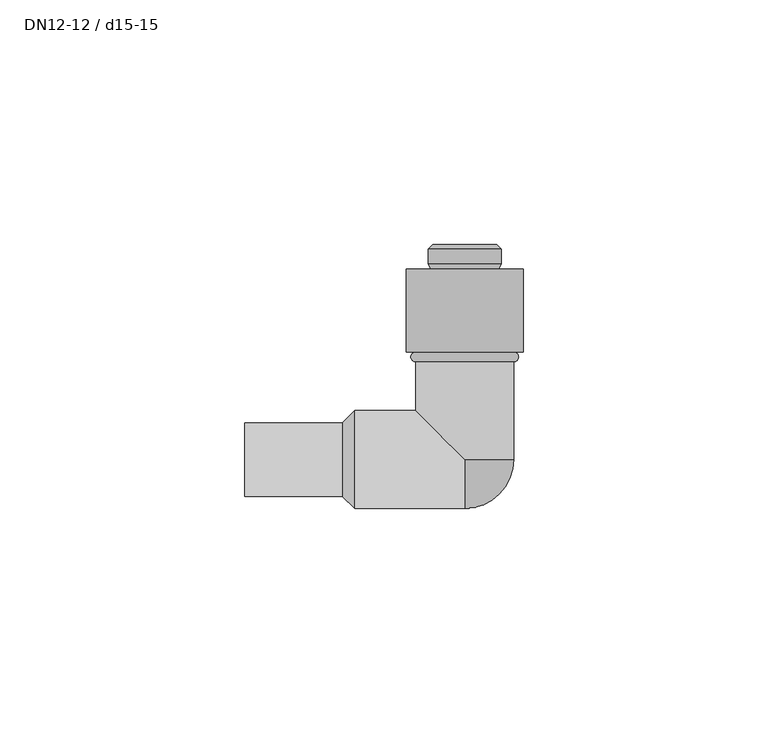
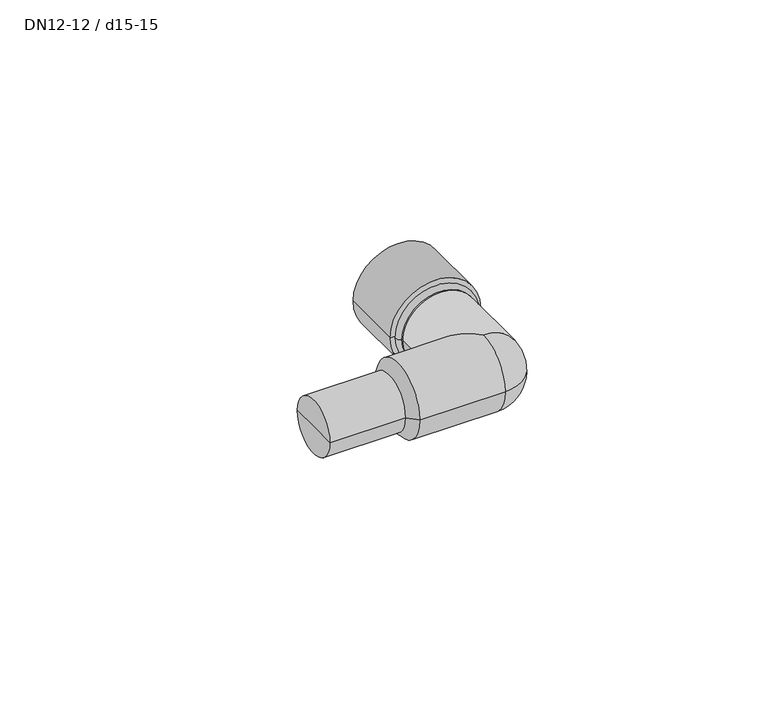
"""IFC4 building model written with IfcOpenShell, lengths in millimetres: pipe fitting geometry, NLRS_50_PIF_UN_Mapress overgangsknie 90° met MasterFix en insteekeinde_geb : DN12-12 / d15-15."""

import ifcopenshell
import ifcopenshell.guid

model = None  # the IFC model being written
_history = None  # IfcOwnerHistory: only IFC2X3 demands one
_inside = {}  # id of a spatial element -> (the spatial element, [elements in it])
_under = {}  # id of a project, library or spatial element -> (it, [spatial elements below it])
_declared = {}  # id of a project -> (the project, [libraries it declares])
_typed = {}  # id of a type object -> (the type object, [elements of that type])
_made_of = {}  # id of a material, layer set ... -> (it, [elements and type objects made of it])


def new_model(schema):
    """Start an empty IFC model of exactly this schema.

    Asked for "IFC4X3", IfcOpenShell would pick the latest addendum, in which some entities
    have other attributes; the version numbers below select the first issue.
    IFC2X3 requires an IfcOwnerHistory on every rooted entity: one is made here for all.
    """
    global model, _history
    if schema == "IFC4X3":
        model = ifcopenshell.file(schema_version=(4, 3, 0, 0))
    else:
        model = ifcopenshell.file(schema=schema)
    _inside.clear()
    _under.clear()
    _declared.clear()
    _typed.clear()
    _made_of.clear()
    _history = None
    if model.schema == "IFC2X3":
        org = make("IfcOrganization", Name="unknown")
        user = make(
            "IfcPersonAndOrganization",
            ThePerson=make("IfcPerson", FamilyName="unknown"),
            TheOrganization=org,
        )
        app = make(
            "IfcApplication",
            ApplicationDeveloper=org,
            Version="unknown",
            ApplicationFullName="unknown",
            ApplicationIdentifier="unknown",
        )
        _history = make(
            "IfcOwnerHistory",
            OwningUser=user,
            OwningApplication=app,
            ChangeAction="ADDED",
            CreationDate=0,
        )
    return model


def make(cls, **values):
    """One entity of the class cls with the attributes given. An attribute that is None is left unset."""
    return model.create_entity(
        cls, **{name: value for name, value in values.items() if value is not None}
    )


def rooted(cls, **values):
    """An entity with a GlobalId (a new one), such as an element, a storey or a relation."""
    return make(cls, GlobalId=ifcopenshell.guid.new(), OwnerHistory=_history, **values)


def si_unit(unit_type, name, prefix=None):
    """IfcSIUnit, for example si_unit("LENGTHUNIT", "METRE", prefix="MILLI")."""
    return make("IfcSIUnit", UnitType=unit_type, Prefix=prefix, Name=name)


def assignment(units):
    """IfcUnitAssignment: the units of a project."""
    return None if units is None else make("IfcUnitAssignment", Units=units)


def point(xyz):
    """IfcCartesianPoint."""
    return None if xyz is None else make("IfcCartesianPoint", Coordinates=xyz)


def direction(xyz):
    """IfcDirection."""
    return None if xyz is None else make("IfcDirection", DirectionRatios=xyz)


def frame(location, z_axis=None, x_axis=None):
    """IfcAxis2Placement3D, a coordinate frame: its origin and axes. An axis left out is left unset."""
    return make(
        "IfcAxis2Placement3D",
        Location=point(location),
        Axis=direction(z_axis),
        RefDirection=direction(x_axis),
    )


def origin():
    """The frame at (0, 0, 0) with its axes left unset."""
    return frame((0.0, 0.0, 0.0))


def place(relative_to, where):
    """IfcLocalPlacement: puts the frame where relative to a parent placement (None: the world)."""
    return make(
        "IfcLocalPlacement", PlacementRelTo=relative_to, RelativePlacement=where
    )


def context(
    kind, dimensions, precision=None, world=None, true_north=None, identifier=None
):
    """IfcGeometricRepresentationContext, for example the 3D "Model" context."""
    return make(
        "IfcGeometricRepresentationContext",
        ContextIdentifier=identifier,
        ContextType=kind,
        CoordinateSpaceDimension=dimensions,
        Precision=precision,
        WorldCoordinateSystem=world,
        TrueNorth=true_north,
    )


def project(units=None, contexts=None):
    """IfcProject with its units and contexts."""
    return rooted(
        "IfcProject",
        Name="project",
        RepresentationContexts=contexts,
        UnitsInContext=assignment(units),
    )


def spatial(cls, under=None, at=None, **own):
    """A site, building, storey or space (cls), placed at a placement, below another one or the project."""
    s = rooted(cls, ObjectPlacement=at, **own)
    if under is not None:
        _under.setdefault(under.id(), (under, []))[1].append(s)
    return s


def polyline(points):
    """IfcPolyline through the points."""
    return make("IfcPolyline", Points=[point(p) for p in points])


def circle_curve(where, radius):
    """IfcCircle in the frame where."""
    return make("IfcCircle", Position=where, Radius=radius)


def ellipse_curve(where, semi_axis1, semi_axis2):
    """IfcEllipse in the frame where."""
    return make(
        "IfcEllipse", Position=where, SemiAxis1=semi_axis1, SemiAxis2=semi_axis2
    )


def trimmed(basis, trim1, trim2, sense, master):
    """IfcTrimmedCurve: the piece of a basis curve between two trims."""
    return make(
        "IfcTrimmedCurve",
        BasisCurve=basis,
        Trim1=trim1,
        Trim2=trim2,
        SenseAgreement=sense,
        MasterRepresentation=master,
    )


def shape(context_of_items, identifier, shape_type, items):
    """IfcShapeRepresentation: the items that make up one representation, for example the "Body"."""
    return make(
        "IfcShapeRepresentation",
        ContextOfItems=context_of_items,
        RepresentationIdentifier=identifier,
        RepresentationType=shape_type,
        Items=items,
    )


def source(mapping_origin, context_of_items, identifier, shape_type, items):
    """IfcRepresentationMap: a shape defined once, which mapped items show again and again."""
    return make(
        "IfcRepresentationMap",
        MappingOrigin=mapping_origin,
        MappedRepresentation=shape(context_of_items, identifier, shape_type, items),
    )


def transform(
    local_origin,
    x_axis=None,
    y_axis=None,
    z_axis=None,
    scale=None,
    scale2=None,
    scale3=None,
    uniform=True,
):
    """IfcCartesianTransformationOperator3D, or its non-uniform kind. x_axis, y_axis, z_axis: its Axis1, 2, 3."""
    if uniform:
        return make(
            "IfcCartesianTransformationOperator3D",
            Axis1=direction(x_axis),
            Axis2=direction(y_axis),
            LocalOrigin=point(local_origin),
            Scale=scale,
            Axis3=direction(z_axis),
        )
    return make(
        "IfcCartesianTransformationOperator3DnonUniform",
        Axis1=direction(x_axis),
        Axis2=direction(y_axis),
        LocalOrigin=point(local_origin),
        Scale=scale,
        Axis3=direction(z_axis),
        Scale2=scale2,
        Scale3=scale3,
    )


def mapped(mapping_source, mapping_target):
    """IfcMappedItem: shows the shape of a source again, moved by a transform."""
    return make(
        "IfcMappedItem", MappingSource=mapping_source, MappingTarget=mapping_target
    )


def made_of(thing, what):
    """Note that an element or type object is made of a material, layer set ...; save() writes the relation."""
    if what is not None:
        _made_of.setdefault(what.id(), (what, []))[1].append(thing)
    return thing


def element(
    cls,
    number,
    at=None,
    inside=None,
    cuts=None,
    type_object=None,
    material=None,
    context=None,
    identifier="Body",
    shape_type=None,
    held_by="IfcProductDefinitionShape",
    body=None,
    shapes=None,
    **own,
):
    """One element of the class cls, such as IfcWall. Its Tag is "e" and its number.

    at: its placement. inside: the storey or other place that contains it. cuts: it is an
    opening in that element (IfcRelVoidsElement). A single representation is given by context,
    identifier, shape_type and body (its items); several are given by shapes. held_by: the class
    of the entity that holds the representations. save() writes the other relations.
    """
    e = rooted(cls, Tag="e%d" % number, ObjectPlacement=at, **own)
    if body is not None:
        shapes = [shape(context, identifier, shape_type, body)]
    if shapes is not None:
        e.Representation = make(held_by, Representations=shapes)
    if inside is not None:
        _inside.setdefault(inside.id(), (inside, []))[1].append(e)
    if cuts is not None:
        rooted(
            "IfcRelVoidsElement", RelatingBuildingElement=cuts, RelatedOpeningElement=e
        )
    if type_object is not None:
        _typed.setdefault(type_object.id(), (type_object, []))[1].append(e)
    return made_of(e, material)


def aggregate(whole, parts):
    """IfcRelAggregates: a whole, such as a stair, and the parts it consists of."""
    return rooted("IfcRelAggregates", RelatingObject=whole, RelatedObjects=parts)


def save(model, path):
    """Write the relations noted so far, then the file.

    IfcRelAggregates (storeys below a building ...), IfcRelContainedInSpatialStructure (elements
    in a storey), IfcRelDefinesByType, IfcRelAssociatesMaterial and IfcRelDeclares: one each for
    every whole, place, type object, material and project.
    """
    for whole, parts in _under.values():
        aggregate(whole, parts)
    for where, things in _inside.values():
        rooted(
            "IfcRelContainedInSpatialStructure",
            RelatedElements=things,
            RelatingStructure=where,
        )
    for kind, things in _typed.values():
        rooted("IfcRelDefinesByType", RelatedObjects=things, RelatingType=kind)
    for what, things in _made_of.values():
        rooted("IfcRelAssociatesMaterial", RelatedObjects=things, RelatingMaterial=what)
    for by, libraries in _declared.values():
        rooted("IfcRelDeclares", RelatingContext=by, RelatedDefinitions=libraries)
    model.write(path)


def plane_surface(at):
    """IfcPlane: the flat surface through the origin of the frame at, square to its z axis."""
    return make("IfcPlane", Position=at)


def cylinder_surface(at, radius):
    """IfcCylindricalSurface: all points at the distance radius from the z axis of the frame at."""
    return make("IfcCylindricalSurface", Position=at, Radius=radius)


def revolved_surface(curve, axis_point, axis_direction):
    """IfcSurfaceOfRevolution: the curve turned about the line through axis_point along axis_direction."""
    return make(
        "IfcSurfaceOfRevolution",
        SweptCurve=make("IfcArbitraryOpenProfileDef", ProfileType="CURVE", Curve=curve),
        AxisPosition=make("IfcAxis1Placement", Location=point(axis_point), Axis=direction(axis_direction)),
    )


def advanced_brep(points, edges, surfaces, faces):
    """IfcAdvancedBrep: a solid bounded by faces that lie on surfaces and meet in shared edges.

    An edge is (start, end): straight between two places in points (the first is 0);
    or (start, end, curve); or (start, end, curve, False) where it runs against its curve.
    A face is (place in surfaces, loops), or (place, loops, False) where it looks against
    its surface's normal. A loop lists edges by number (the first is 1), with a minus sign
    where the edge is run from its end to its start. The first loop is the outer one.
    """
    corners = [point(p) for p in points]
    vertices = [make("IfcVertexPoint", VertexGeometry=c) for c in corners]
    made = []
    for start, end, *more in edges:
        made.append(
            make(
                "IfcEdgeCurve",
                EdgeStart=vertices[start],
                EdgeEnd=vertices[end],
                EdgeGeometry=more[0] if more else make("IfcPolyline", Points=[corners[start], corners[end]]),
                SameSense=more[1] if len(more) > 1 else True,
            )
        )
    hull = []
    for where, loops, *sense in faces:
        bounds = []
        for j, loop in enumerate(loops):
            ring = [make("IfcOrientedEdge", EdgeElement=made[abs(k) - 1], Orientation=k > 0) for k in loop]
            bounds.append(
                make(
                    "IfcFaceOuterBound" if j == 0 else "IfcFaceBound",
                    Bound=make("IfcEdgeLoop", EdgeList=ring),
                    Orientation=True,
                )
            )
        hull.append(make("IfcAdvancedFace", Bounds=bounds, FaceSurface=surfaces[where], SameSense=sense[0] if sense else True))
    return make("IfcAdvancedBrep", Outer=make("IfcClosedShell", CfsFaces=hull))


def dn12_12_d15_15_3ed2f5e3(model_context):
    return source(origin(), model_context, "Body", "AdvancedBrep", [
        advanced_brep(
        [(0.0, 44.0, 0.0), (6.5, 44.0, 0.0), (-6.5, 44.0, 0.0), (-10.0, 20.0, 0.0), (10.0, 20.0, 0.0), (0.0, 20.0, 0.0), (-10.0, 22.0, 0.0), (10.0, 22.0, 0.0), (-7.5, 22.0, 0.0), (7.5, 22.0, 0.0), (-7.5, 28.881966, 0.0), (7.5, 28.881966, 0.0), (-7.5, 31.118034, 0.0), (7.5, 31.118034, 0.0), (-7.5, 33.9414451, 0.0), (7.5, 33.9414451, 0.0), (-7.5, 39.9892433, 0.0), (7.5, 39.9892433, 0.0), (-7.5, 43.0, 0.0), (7.5, 43.0, 0.0)],
        [
            (0, 1),
            (1, 2, circle_curve(frame((0.0, 44.0, 0.0), z_axis=(0.0, 1.0, 0.0), x_axis=(1.0000000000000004, 0.0, 0.0)), 6.5)),
            (2, 0),
            (2, 1, circle_curve(frame((0.0, 44.0, 0.0), z_axis=(0.0, 1.0, 0.0), x_axis=(1.0000000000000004, 0.0, 0.0)), 6.5)),
            (3, 4, circle_curve(frame((0.0, 20.0, 0.0), z_axis=(0.0, -1.0, 0.0), x_axis=(1.0000000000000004, 0.0, 0.0)), 10.0)),
            (4, 5),
            (5, 3),
            (4, 3, circle_curve(frame((0.0, 20.0, 0.0), z_axis=(0.0, -1.0, 0.0), x_axis=(1.0000000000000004, 0.0, 0.0)), 10.0)),
            (6, 7, circle_curve(frame((0.0, 22.0, 0.0), z_axis=(0.0, -1.0, 0.0), x_axis=(1.0000000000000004, 0.0, 0.0)), 10.0)),
            (7, 4, circle_curve(frame((10.0, 21.0, 0.0), z_axis=(0.0, 0.0, -1.0), x_axis=(0.0, -1.0000000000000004, 0.0)), 1.0)),
            (3, 6, circle_curve(frame((-10.0, 21.0, 0.0), z_axis=(0.0, 0.0, -1.0), x_axis=(0.0, -1.0000000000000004, 0.0)), 1.0)),
            (7, 6, circle_curve(frame((0.0, 22.0, 0.0), z_axis=(0.0, -1.0, 0.0), x_axis=(1.0000000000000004, 0.0, 0.0)), 10.0)),
            (8, 9, circle_curve(frame((0.0, 22.0, 0.0), z_axis=(0.0, -1.0, 0.0), x_axis=(1.0000000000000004, 0.0, 0.0)), 7.5)),
            (9, 7),
            (6, 8),
            (9, 8, circle_curve(frame((0.0, 22.0, 0.0), z_axis=(0.0, -1.0, 0.0), x_axis=(1.0000000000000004, 0.0, 0.0)), 7.5)),
            (10, 11, circle_curve(frame((0.0, 28.881966, 0.0), z_axis=(0.0, -1.0, 0.0), x_axis=(1.0000000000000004, 0.0, 0.0)), 7.5)),
            (11, 9),
            (8, 10),
            (11, 10, circle_curve(frame((0.0, 28.881966, 0.0), z_axis=(0.0, -1.0, 0.0), x_axis=(1.0000000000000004, 0.0, 0.0)), 7.5)),
            (12, 13, circle_curve(frame((0.0, 31.118034, 0.0), z_axis=(0.0, -1.0, 0.0), x_axis=(1.0000000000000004, 0.0, 0.0)), 7.5)),
            (13, 11, circle_curve(frame((6.9889209, 30.0, 0.0), z_axis=(0.0, 0.0, -1.0), x_axis=(0.0, -1.0000000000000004, 0.0)), 1.2293095)),
            (10, 12, circle_curve(frame((-6.9889209, 30.0, 0.0), z_axis=(0.0, 0.0, -1.0), x_axis=(0.0, -1.0000000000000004, 0.0)), 1.2293095)),
            (13, 12, circle_curve(frame((0.0, 31.118034, 0.0), z_axis=(0.0, -1.0, 0.0), x_axis=(1.0000000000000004, 0.0, 0.0)), 7.5)),
            (14, 15, circle_curve(frame((0.0, 33.9414451, 0.0), z_axis=(0.0, -1.0, 0.0), x_axis=(1.0000000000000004, 0.0, 0.0)), 7.5)),
            (15, 13),
            (12, 14),
            (15, 14, circle_curve(frame((0.0, 33.9414451, 0.0), z_axis=(0.0, -1.0, 0.0), x_axis=(1.0000000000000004, 0.0, 0.0)), 7.5)),
            (16, 17, circle_curve(frame((0.0, 39.9892433, 0.0), z_axis=(0.0, -1.0, 0.0), x_axis=(1.0000000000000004, 0.0, 0.0)), 7.5)),
            (17, 15, circle_curve(frame((11.7319636, 36.9653442, 0.0), z_axis=(0.0, 0.0, 1.0), x_axis=(0.0, -1.0000000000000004, 0.0)), 5.2012962)),
            (14, 16, circle_curve(frame((-11.7319636, 36.9653442, 0.0), z_axis=(0.0, 0.0, 1.0), x_axis=(0.0, -1.0000000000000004, 0.0)), 5.2012962)),
            (17, 16, circle_curve(frame((0.0, 39.9892433, 0.0), z_axis=(0.0, -1.0, 0.0), x_axis=(1.0000000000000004, 0.0, 0.0)), 7.5)),
            (18, 19, circle_curve(frame((0.0, 43.0, 0.0), z_axis=(0.0, -1.0, 0.0), x_axis=(1.0000000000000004, 0.0, 0.0)), 7.5)),
            (19, 17),
            (16, 18),
            (19, 18, circle_curve(frame((0.0, 43.0, 0.0), z_axis=(0.0, -1.0, 0.0), x_axis=(1.0000000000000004, 0.0, 0.0)), 7.5)),
            (1, 19),
            (18, 2),
        ],
        [
            plane_surface(frame((0.0, 44.0, 0.0), z_axis=(0.0, 1.0, 0.0), x_axis=(1.0, 0.0, 0.0))),
            plane_surface(frame((0.0, 20.0, 0.0), z_axis=(0.0, -1.0, 0.0), x_axis=(1.0, 0.0, 0.0))),
            revolved_surface(trimmed(ellipse_curve(frame((10.0, 21.0, 0.0), z_axis=(0.0, 0.0, 1.0), x_axis=(0.0, -1.0000000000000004, 0.0)), 1.0, 1.0), [point((10.0, 20.0, 0.0))], [point((10.0, 22.0, 0.0))], True, "CARTESIAN"), (0.0, 52.045876, 0.0), (0.0, 1.0000000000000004, 0.0)),
            plane_surface(frame((0.0, 22.0, 0.0), z_axis=(0.0, 1.0, 0.0), x_axis=(1.0, 0.0, 0.0))),
            cylinder_surface(frame((0.0, 52.045876, 0.0), z_axis=(0.0, 1.0000000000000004, 0.0), x_axis=(1.0000000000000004, 0.0, 0.0)), 7.5),
            revolved_surface(trimmed(ellipse_curve(frame((6.9889209, 30.0, 0.0), z_axis=(0.0, 0.0, 1.0), x_axis=(0.0, -1.0000000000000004, 0.0)), 1.2293095, 1.2293095), [point((7.5, 28.881966, 0.0))], [point((7.5, 31.118034, 0.0))], True, "CARTESIAN"), (0.0, 52.045876, 0.0), (0.0, 1.0000000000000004, 0.0)),
            revolved_surface(trimmed(ellipse_curve(frame((11.7319636, 36.9653442, 0.0), z_axis=(0.0, 0.0, -1.0), x_axis=(0.0, -1.0000000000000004, 0.0)), 5.2012962, 5.2012962), [point((7.5, 33.9414451, 0.0))], [point((7.5, 39.9892433, 0.0))], True, "CARTESIAN"), (0.0, 52.045876, 0.0), (0.0, 1.0000000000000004, 0.0)),
            revolved_surface(polyline([(7.5, 43.0, 0.0), (6.5, 44.0, 0.0)]), (0.0, 52.045876, 0.0), (0.0, 1.0000000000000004, 0.0)),
        ],
        [
            (0, [[1, 2, 3]]),
            (0, [[-3, 4, -1]]),
            (1, [[5, 6, 7]]),
            (1, [[8, -7, -6]]),
            (2, [[9, 10, -5, 11]]),
            (2, [[12, -11, -8, -10]]),
            (3, [[13, 14, -9, 15]]),
            (3, [[16, -15, -12, -14]]),
            (4, [[17, 18, -13, 19]]),
            (4, [[20, -19, -16, -18]]),
            (5, [[21, 22, -17, 23]]),
            (5, [[24, -23, -20, -22]]),
            (4, [[25, 26, -21, 27]]),
            (4, [[28, -27, -24, -26]]),
            (6, [[29, 30, -25, 31]]),
            (6, [[32, -31, -28, -30]]),
            (4, [[33, 34, -29, 35]]),
            (4, [[36, -35, -32, -34]]),
            (7, [[-2, 37, -33, 38]]),
            (7, [[-4, -38, -36, -37]]),
        ],
    ),
        advanced_brep(
        [(-10.0, 22.0, 0.0), (10.0, 22.0, 0.0), (10.0, 39.0, 0.0), (-10.0, 39.0, 0.0), (-12.0, 22.0, 0.0), (12.0, 22.0, 0.0), (-12.0, 39.0, 0.0), (12.0, 39.0, 0.0)],
        [
            (0, 1, circle_curve(frame((0.0, 22.0, 0.0), z_axis=(0.0, -1.0, 0.0), x_axis=(1.0000000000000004, 0.0, 0.0)), 10.0)),
            (1, 2),
            (2, 3, circle_curve(frame((0.0, 39.0, 0.0), z_axis=(0.0, 1.0, 0.0), x_axis=(1.0000000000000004, 0.0, 0.0)), 10.0)),
            (3, 0),
            (1, 0, circle_curve(frame((0.0, 22.0, 0.0), z_axis=(0.0, -1.0, 0.0), x_axis=(1.0000000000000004, 0.0, 0.0)), 10.0)),
            (3, 2, circle_curve(frame((0.0, 39.0, 0.0), z_axis=(0.0, 1.0, 0.0), x_axis=(1.0000000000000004, 0.0, 0.0)), 10.0)),
            (4, 5, circle_curve(frame((0.0, 22.0, 0.0), z_axis=(0.0, -1.0, 0.0), x_axis=(1.0000000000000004, 0.0, 0.0)), 12.0)),
            (5, 1),
            (0, 4),
            (5, 4, circle_curve(frame((0.0, 22.0, 0.0), z_axis=(0.0, -1.0, 0.0), x_axis=(1.0000000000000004, 0.0, 0.0)), 12.0)),
            (6, 7, circle_curve(frame((0.0, 39.0, 0.0), z_axis=(0.0, -1.0, 0.0), x_axis=(1.0000000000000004, 0.0, 0.0)), 12.0)),
            (7, 5),
            (4, 6),
            (7, 6, circle_curve(frame((0.0, 39.0, 0.0), z_axis=(0.0, -1.0, 0.0), x_axis=(1.0000000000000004, 0.0, 0.0)), 12.0)),
            (2, 7),
            (6, 3),
        ],
        [
            revolved_surface(polyline([(10.000000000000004, 38.99999999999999, 0.0), (10.000000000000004, 21.99999999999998, 0.0)]), (0.0, 49.0, 0.0), (0.0, 1.0000000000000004, 0.0)),
            plane_surface(frame((0.0, 22.0, 0.0), z_axis=(0.0, -1.0, 0.0), x_axis=(1.0, 0.0, 0.0))),
            cylinder_surface(frame((0.0, 49.0, 0.0), z_axis=(0.0, 1.0000000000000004, 0.0), x_axis=(1.0000000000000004, 0.0, 0.0)), 12.0),
            plane_surface(frame((0.0, 39.0, 0.0), z_axis=(0.0, 1.0, 0.0), x_axis=(1.0, 0.0, 0.0))),
        ],
        [
            (0, [[1, 2, 3, 4]]),
            (0, [[5, -4, 6, -2]]),
            (1, [[7, 8, -1, 9]]),
            (1, [[10, -9, -5, -8]]),
            (2, [[11, 12, -7, 13]]),
            (2, [[14, -13, -10, -12]]),
            (3, [[-3, 15, -11, 16]]),
            (3, [[-6, -16, -14, -15]]),
        ],
    ),
        advanced_brep(
        [(10.0, 20.0, 0.0), (-10.0, 20.0, 0.0), (0.0, 20.0, 0.0), (10.0, 0.0, 0.0), (6.9229942, 0.0, -7.2161036), (0.0, 0.0, -10.0), (-10.0, 10.0, 0.0), (0.0, 0.0, 10.0), (6.9229942, 0.0, 7.2161036), (0.0, -10.0, 0.0), (-22.5, -10.0, 0.0), (-22.5, 10.0, 0.0), (0.0, -6.9229942, -7.2161036), (-45.0, 7.5, 0.0), (-45.0, -7.5, 0.0), (-45.0, 0.0, 0.0), (0.0, -6.9229942, 7.2161036), (-25.0, 7.5, 0.0), (-25.0, -7.5, 0.0)],
        [
            (0, 1, circle_curve(frame((0.0, 20.0, 0.0), z_axis=(0.0, 1.0, 0.0), x_axis=(-1.0, 0.0, 0.0)), 10.0)),
            (1, 2),
            (2, 0),
            (1, 0, circle_curve(frame((0.0, 20.0, 0.0), z_axis=(0.0, 1.0, 0.0), x_axis=(-1.0, 0.0, 0.0)), 10.0)),
            (0, 3),
            (3, 4, circle_curve(frame((0.0, 0.0, 0.0), z_axis=(0.0, 1.0, 0.0), x_axis=(-1.0, 0.0, 0.0)), 10.0)),
            (4, 5, circle_curve(frame((0.0, 0.0, 0.0), z_axis=(0.0, 1.0, 0.0), x_axis=(-1.0, 0.0, 0.0)), 10.0)),
            (5, 6, ellipse_curve(frame((0.0, 0.0, 0.0), z_axis=(0.7071067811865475, 0.7071067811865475, 0.0), x_axis=(0.7071067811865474, -0.7071067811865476, 0.0)), 14.1421356, 10.0)),
            (6, 1),
            (6, 7, ellipse_curve(frame((0.0, 0.0, 0.0), z_axis=(0.7071067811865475, 0.7071067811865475, 0.0), x_axis=(0.7071067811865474, -0.7071067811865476, 0.0)), 14.1421356, 10.0)),
            (7, 8, circle_curve(frame((0.0, 0.0, 0.0), z_axis=(0.0, 1.0, 0.0), x_axis=(-1.0, 0.0, 0.0)), 10.0)),
            (8, 3, circle_curve(frame((0.0, 0.0, 0.0), z_axis=(0.0, 1.0, 0.0), x_axis=(-1.0, 0.0, 0.0)), 10.0)),
            (9, 10),
            (10, 11, circle_curve(frame((-22.5, 0.0, 0.0), z_axis=(1.0, 0.0, 0.0), x_axis=(0.0, -1.0, 0.0)), 10.0)),
            (11, 6),
            (5, 12, circle_curve(frame((0.0, 0.0, 0.0), z_axis=(-1.0, 0.0, 0.0), x_axis=(0.0, -1.0, 0.0)), 10.0)),
            (12, 9, circle_curve(frame((0.0, 0.0, 0.0), z_axis=(-1.0, 0.0, 0.0), x_axis=(0.0, -1.0, 0.0)), 10.0)),
            (13, 14, circle_curve(frame((-45.0, 0.0, 0.0), z_axis=(-1.0, 0.0, 0.0), x_axis=(0.0, -1.0, 0.0)), 7.5)),
            (14, 15),
            (15, 13),
            (14, 13, circle_curve(frame((-45.0, 0.0, 0.0), z_axis=(-1.0, 0.0, 0.0), x_axis=(0.0, -1.0, 0.0)), 7.5)),
            (9, 16, circle_curve(frame((0.0, 0.0, 0.0), z_axis=(-1.0, 0.0, 0.0), x_axis=(0.0, -1.0, 0.0)), 10.0)),
            (16, 7, circle_curve(frame((0.0, 0.0, 0.0), z_axis=(-1.0, 0.0, 0.0), x_axis=(0.0, -1.0, 0.0)), 10.0)),
            (11, 10, circle_curve(frame((-22.5, 0.0, 0.0), z_axis=(1.0, 0.0, 0.0), x_axis=(0.0, -1.0, 0.0)), 10.0)),
            (3, 9, circle_curve(frame((0.0, 0.0, 0.0), z_axis=(0.0, 0.0, -1.0), x_axis=(0.0, -1.0, 0.0)), 10.0)),
            (13, 17),
            (17, 18, circle_curve(frame((-25.0, 0.0, 0.0), z_axis=(-1.0, 0.0, 0.0), x_axis=(0.0, -1.0, 0.0)), 7.5)),
            (18, 14),
            (18, 17, circle_curve(frame((-25.0, 0.0, 0.0), z_axis=(-1.0, 0.0, 0.0), x_axis=(0.0, -1.0, 0.0)), 7.5)),
            (10, 18),
            (17, 11),
        ],
        [
            plane_surface(frame((0.0, 20.0, 0.0), z_axis=(0.0, 1.0, 0.0), x_axis=(-1.0, 0.0, 0.0))),
            cylinder_surface(frame((0.0, 2003.3186671, 0.0), z_axis=(0.0, -1.0, 0.0), x_axis=(-1.0, 0.0, 0.0)), 10.0),
            cylinder_surface(frame((2000.0, 0.0, 0.0), z_axis=(1.0, 0.0, 0.0), x_axis=(0.0, -1.0, 0.0)), 10.0),
            plane_surface(frame((-45.0, 0.0, 0.0), z_axis=(-1.0, 0.0, 0.0), x_axis=(0.0, -1.0, 0.0))),
            revolved_surface(trimmed(ellipse_curve(frame((0.0, 0.0, 0.0), z_axis=(0.0, 0.0, 1.0), x_axis=(0.0, -1.0, 0.0)), 10.0, 10.0), [point((0.0, -10.0, 0.0))], [point((10.0, 0.0, 0.0))], True, "CARTESIAN"), (0.0, 2000.0, 0.0), (0.0, 1.0, 0.0)),
            cylinder_surface(frame((2000.0, 0.0, 0.0), z_axis=(1.0, 0.0, 0.0), x_axis=(0.0, -1.0, 0.0)), 7.5),
            revolved_surface(polyline([(-25.0, -7.5, 0.0), (-22.5, -10.0, 0.0)]), (2000.0, 0.0, 0.0), (1.0, 0.0, 0.0)),
        ],
        [
            (0, [[1, 2, 3]]),
            (0, [[-2, 4, -3]]),
            (1, [[-1, 5, 6, 7, 8, 9]]),
            (1, [[-4, -9, 10, 11, 12, -5]]),
            (2, [[13, 14, 15, -8, 16, 17]]),
            (3, [[18, 19, 20]]),
            (3, [[-19, 21, -20]]),
            (2, [[-13, 22, 23, -10, -15, 24]]),
            (4, [[25, -17, -16, -7, -6]]),
            (4, [[-25, -12, -11, -23, -22]]),
            (5, [[-18, 26, 27, 28]]),
            (5, [[-21, -28, 29, -26]]),
            (6, [[-14, 30, -27, 31]]),
            (6, [[-24, -31, -29, -30]]),
        ],
    ),
    ])


if __name__ == "__main__":
    model = new_model("IFC4")
    model_context = context("Model", 3, world=origin())
    ifc_project = project(units=[si_unit("LENGTHUNIT", "METRE", prefix="MILLI")], contexts=[model_context])
    site = spatial("IfcSite", under=ifc_project)
    building = spatial("IfcBuilding", under=site)
    placement = place(None, origin())
    dn12_12_d15_15_shape = dn12_12_d15_15_3ed2f5e3(model_context)
    element("IfcPipeFitting", 1, ObjectType="NLRS_50_PIF_UN_Mapress overgangsknie 90° met MasterFix en insteekeinde_geb : DN12-12 / d15-15", at=placement, inside=building, context=model_context, shape_type="MappedRepresentation", body=[
        mapped(dn12_12_d15_15_shape, transform((0.0, 0.0, 0.0), x_axis=(1.0, 0.0, 0.0), y_axis=(0.0, 1.0, 0.0), z_axis=(0.0, 0.0, 1.0))),
    ])
    save(model, "model.ifc")
